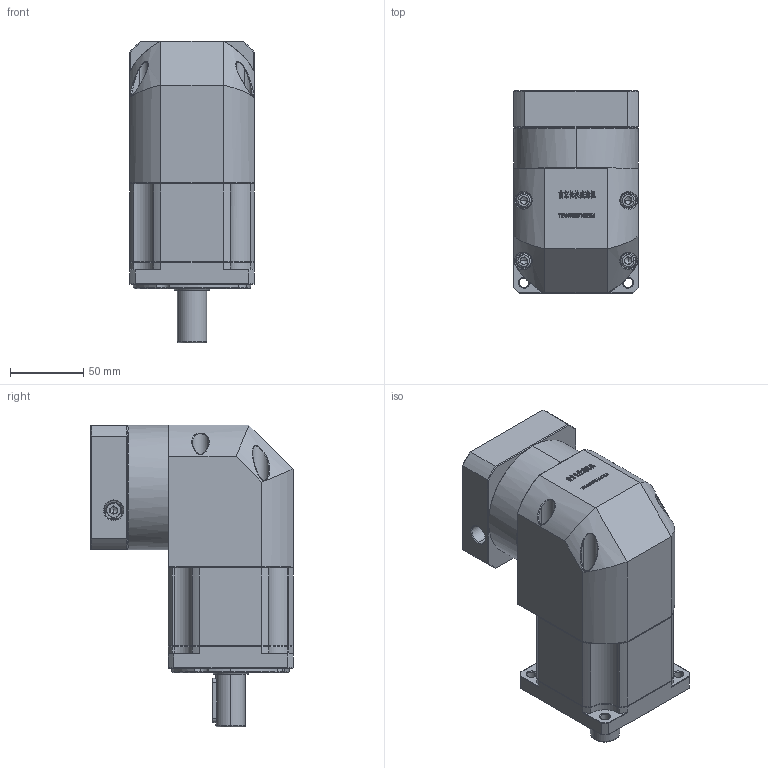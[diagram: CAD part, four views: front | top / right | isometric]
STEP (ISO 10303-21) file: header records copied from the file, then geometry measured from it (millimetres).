
FILE_DESCRIPTION (( 'STEP AP214' ), '1' );
FILE_NAME ('ZBR90-D20-L2-12.7-73-69.5X69.5-M6.step', '2022-05-07T15:12:29', ( '' ), ( 'Microsoft' ), 'SwSTEP 2.0', 'SolidWorks 2016', '' );
FILE_SCHEMA (( 'AUTOMOTIVE_DESIGN' ));
Length unit declared in the file: millimetre
Products named in the file (1): ZBR90-D20-L2-12.7-73-69.5X69.5-M6
Bounding box: 85 x 137.6 x 205.5 mm (x, y, z)
Volume: 1305307 mm3; surface area: 135745.6 mm2
Topology: 5 solids, 5 shells, 3003 faces, 7951 edges, 5082 vertices
Faces by surface type: plane 1577, bspline 603, cylinder 447, cone 350, torus 26
Entity records: 163204 total; most frequent: CARTESIAN_POINT 60635, ORIENTED_EDGE 15826, DIRECTION 12060, EDGE_CURVE 7913, LINE 5280, VECTOR 5280, VERTEX_POINT 5082, AXIS2_PLACEMENT_3D 3390
